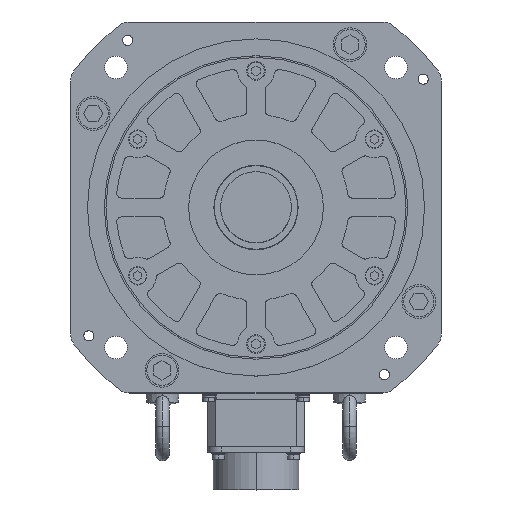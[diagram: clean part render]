
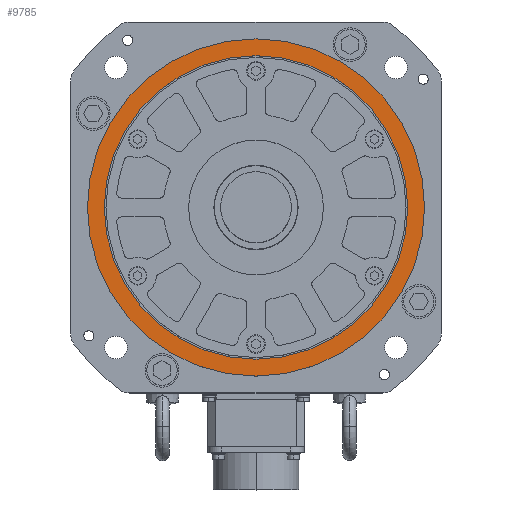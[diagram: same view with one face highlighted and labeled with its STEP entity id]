
A CAD part, top view. The second image highlights one B-rep face of the part: STEP entity #9785.
In plain terms, the highlighted planar face has unit normal (0, 0, 1).
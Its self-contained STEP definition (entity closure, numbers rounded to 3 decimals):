
#9460 = VERTEX_POINT ( 'NONE', #32439 ) ;
#9462 = EDGE_CURVE ( 'NONE', #9460, #9463, #32438, .T. ) ;
#9463 = VERTEX_POINT ( 'NONE', #32433 ) ;
#9711 = EDGE_LOOP ( 'NONE', ( #9712, #9761 ) ) ;
#9712 = ORIENTED_EDGE ( 'NONE', *, *, #9713, .T. ) ;
#9713 = EDGE_CURVE ( 'NONE', #11768, #11767, #32911, .T. ) ;
#9761 = ORIENTED_EDGE ( 'NONE', *, *, #11712, .T. ) ;
#9762 = EDGE_LOOP ( 'NONE', ( #9763, #9765 ) ) ;
#9763 = ORIENTED_EDGE ( 'NONE', *, *, #9764, .F. ) ;
#9764 = EDGE_CURVE ( 'NONE', #9463, #9460, #33014, .T. ) ;
#9765 = ORIENTED_EDGE ( 'NONE', *, *, #9462, .F. ) ;
#9785 = ADVANCED_FACE ( 'NONE', ( #33043, #33042 ), #33041, .T. ) ;
#11712 = EDGE_CURVE ( 'NONE', #11767, #11768, #36695, .T. ) ;
#11767 = VERTEX_POINT ( 'NONE', #36835 ) ;
#11768 = VERTEX_POINT ( 'NONE', #36834 ) ;
#32433 = CARTESIAN_POINT ( 'NONE',  ( 90., 0., 4. ) ) ;
#32434 = DIRECTION ( 'NONE',  ( 1., 0., 0. ) ) ;
#32435 = DIRECTION ( 'NONE',  ( 0., 0., 1. ) ) ;
#32436 = CARTESIAN_POINT ( 'NONE',  ( 0., 0., 4. ) ) ;
#32437 = AXIS2_PLACEMENT_3D ( 'NONE', #32436, #32435, #32434 ) ;
#32438 = CIRCLE ( 'NONE', #32437, 90. ) ;
#32439 = CARTESIAN_POINT ( 'NONE',  ( -90., 0., 4. ) ) ;
#32907 = DIRECTION ( 'NONE',  ( 1., 0., 0. ) ) ;
#32908 = DIRECTION ( 'NONE',  ( 0., 0., 1. ) ) ;
#32909 = CARTESIAN_POINT ( 'NONE',  ( 0., 0., 4. ) ) ;
#32910 = AXIS2_PLACEMENT_3D ( 'NONE', #32909, #32908, #32907 ) ;
#32911 = CIRCLE ( 'NONE', #32910, 100. ) ;
#33010 = DIRECTION ( 'NONE',  ( 1., 0., 0. ) ) ;
#33011 = DIRECTION ( 'NONE',  ( 0., 0., 1. ) ) ;
#33012 = CARTESIAN_POINT ( 'NONE',  ( 0., 0., 4. ) ) ;
#33013 = AXIS2_PLACEMENT_3D ( 'NONE', #33012, #33011, #33010 ) ;
#33014 = CIRCLE ( 'NONE', #33013, 90. ) ;
#33037 = DIRECTION ( 'NONE',  ( 1., 0., 0. ) ) ;
#33038 = DIRECTION ( 'NONE',  ( 0., 0., 1. ) ) ;
#33039 = CARTESIAN_POINT ( 'NONE',  ( 0., 0., 4. ) ) ;
#33040 = AXIS2_PLACEMENT_3D ( 'NONE', #33039, #33038, #33037 ) ;
#33041 = PLANE ( 'NONE',  #33040 ) ;
#33042 = FACE_BOUND ( 'NONE', #9762, .T. ) ;
#33043 = FACE_OUTER_BOUND ( 'NONE', #9711, .T. ) ;
#36692 = DIRECTION ( 'NONE',  ( 1., 0., 0. ) ) ;
#36693 = DIRECTION ( 'NONE',  ( 0., 0., 1. ) ) ;
#36694 = AXIS2_PLACEMENT_3D ( 'NONE', #36701, #36693, #36692 ) ;
#36695 = CIRCLE ( 'NONE', #36694, 100. ) ;
#36701 = CARTESIAN_POINT ( 'NONE',  ( 0., 0., 4. ) ) ;
#36834 = CARTESIAN_POINT ( 'NONE',  ( -100., 0., 4. ) ) ;
#36835 = CARTESIAN_POINT ( 'NONE',  ( 100., 0., 4. ) ) ;
